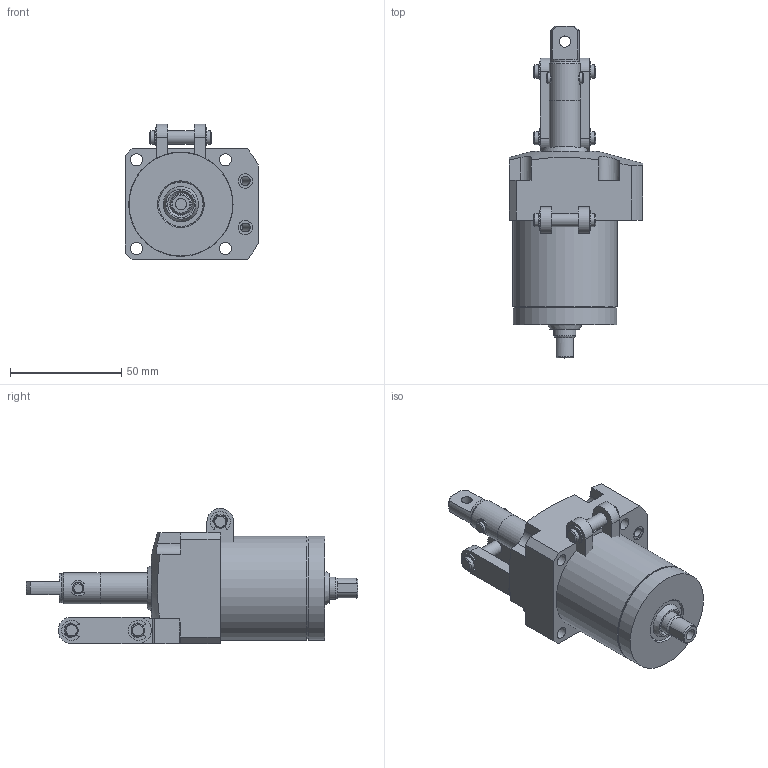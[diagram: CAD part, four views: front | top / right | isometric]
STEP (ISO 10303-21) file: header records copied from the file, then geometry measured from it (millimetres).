
FILE_DESCRIPTION( ( '' ), '1' );
FILE_NAME( 'W:/Catalogue/JL5H/JL5H28-22GRD/JL5H28-22GRD.stp', '2008-05-26T01:14:02', ( '機械事業部産業機器グループ' ), ( '豊和工業株式会社' ), 'XStep 1.0', ' ', ' ' );
FILE_SCHEMA( ( 'CONFIG_CONTROL_DESIGN' ) );
Length unit declared in the file: millimetre
Products named in the file (6): Assem1; 1; 2; 3; 4; 5
Bounding box: 60 x 149.5 x 61 mm (x, y, z)
Volume: 321487.4 mm3; surface area: 81427.2 mm2
Topology: 11 solids, 17 shells, 634 faces, 1607 edges, 1047 vertices
Faces by surface type: plane 332, cylinder 236, cone 62, torus 4
Full cylindrical faces by diameter (mm): 2 x2, 3 x4, 4 x12, 4.5 x2, 5 x10, 5.5 x8, 6 x14, 6.5 x4, 8.3 x4, 10 x4, 11 x2, 13 x2, 14 x4, 14.6 x2, 16 x2, 20 x6, 24 x4, 28 x4, 46 x2, 46.7 x2, 47 x2
Entity records: 9322 total; most frequent: CARTESIAN_POINT 1766, DIRECTION 1604, ORIENTED_EDGE 1358, EDGE_CURVE 679, AXIS2_PLACEMENT_3D 635, VERTEX_POINT 485, EDGE_LOOP 436, FACE_OUTER_BOUND 359
